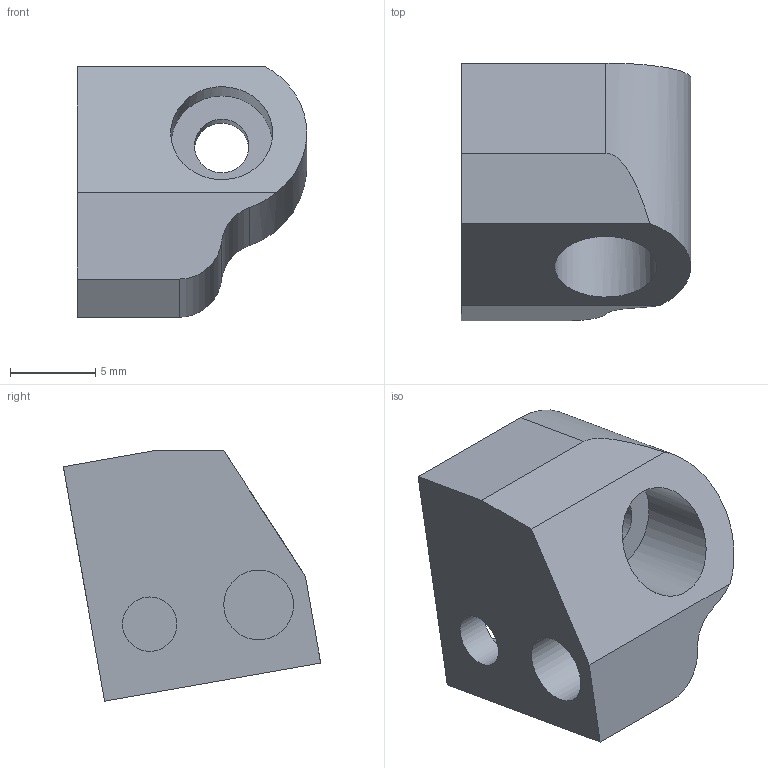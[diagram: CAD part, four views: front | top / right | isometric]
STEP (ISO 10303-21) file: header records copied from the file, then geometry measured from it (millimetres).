
FILE_DESCRIPTION(/* description */ (''),/* implementation_level */ '2;1');
FILE_NAME(/* name */ '4-24-1 Shock mount left front.step',/* time_stamp */ '2025-05-10T22:18:46+02:00',/* author */ (''),/* organization */ (''),/* preprocessor_version */ 'ST-DEVELOPER v20.1',/* originating_system */ 'Autodesk Translation Framework v14.4.0.0',/* authorisation */ '');
FILE_SCHEMA (('AUTOMOTIVE_DESIGN { 1 0 10303 214 3 1 1 }'));
Length unit declared in the file: millimetre
Products named in the file (1): Shock mount left front
Bounding box: 13.5 x 15.14 x 14.72 mm (x, y, z)
Volume: 1326.9 mm3; surface area: 1249.3 mm2
Topology: 1 solids, 1 shells, 37 faces, 92 edges, 61 vertices
Faces by surface type: plane 28, cylinder 8, cone 1
Full cylindrical faces by diameter (mm): 3.2 x3, 4.1 x1, 6 x1
Entity records: 1145 total; most frequent: CARTESIAN_POINT 203, DIRECTION 187, ORIENTED_EDGE 184, EDGE_CURVE 92, AXIS2_PLACEMENT_3D 63, LINE 61, VECTOR 61, VERTEX_POINT 61
